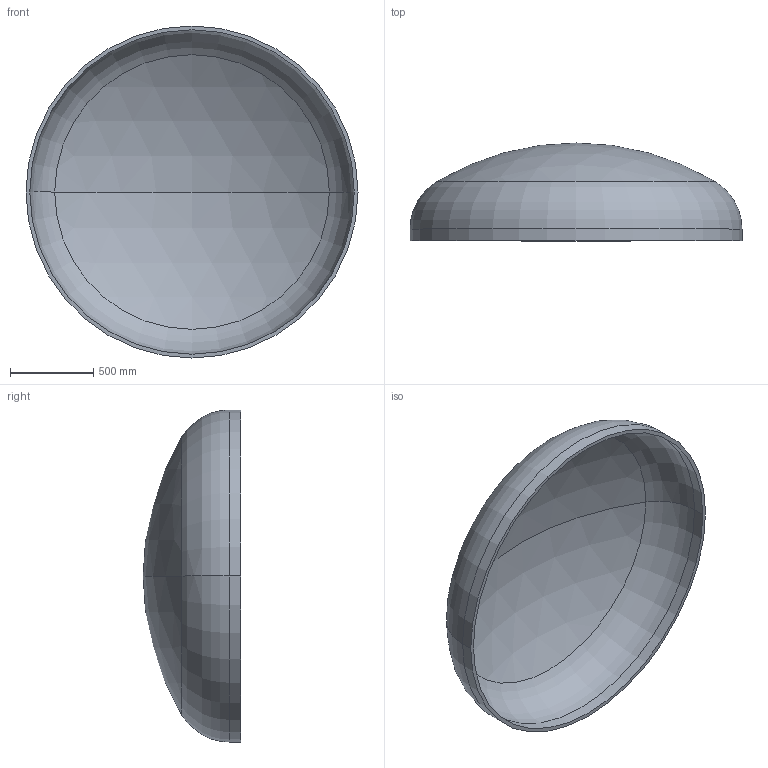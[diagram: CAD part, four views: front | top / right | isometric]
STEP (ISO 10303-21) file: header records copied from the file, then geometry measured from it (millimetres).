
FILE_DESCRIPTION (( 'STEP AP203' ), '1' );
FILE_NAME ('DIN 28013 Korbbogenform_-_Boden DIN 28013 - 2000 x 70 - I - s=23.step', '2016-07-01T13:42:46', ( '' ), ( '' ), 'SwSTEP 2.0', 'SolidWorks 2013', '' );
FILE_SCHEMA (( 'CONFIG_CONTROL_DESIGN' ));
Length unit declared in the file: millimetre
Products named in the file (1): DIN 28013 Korbbogenform_-_Boden DIN 28013 - 2000 x 70 - I - s=23
Bounding box: 2000 x 588.82 x 2000 mm (x, y, z)
Volume: 108689482.9 mm3; surface area: 9595215.3 mm2
Topology: 1 solids, 1 shells, 13 faces, 24 edges, 14 vertices
Faces by surface type: torus 4, cylinder 4, sphere 4, plane 1
Entity records: 407 total; most frequent: DIRECTION 72, CARTESIAN_POINT 52, ORIENTED_EDGE 48, AXIS2_PLACEMENT_3D 34, EDGE_CURVE 24, CIRCLE 20, VERTEX_POINT 14, EDGE_LOOP 14
